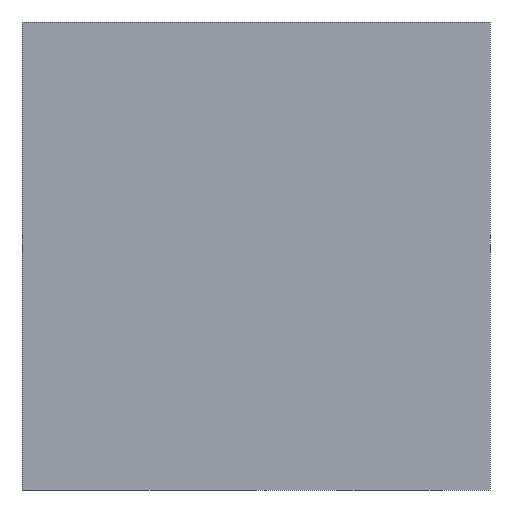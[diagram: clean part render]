
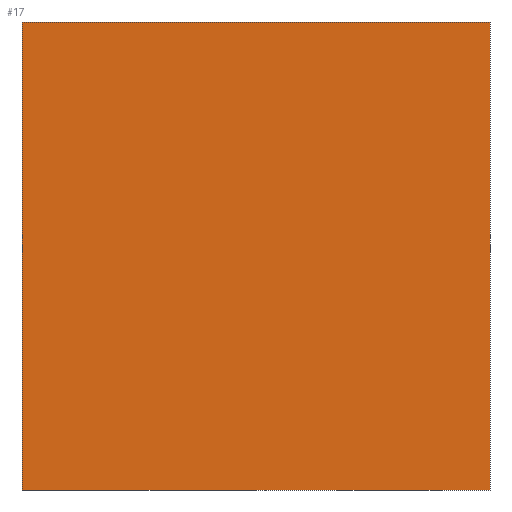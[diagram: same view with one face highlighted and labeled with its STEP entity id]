
A CAD part, left-side view. The second image highlights one B-rep face of the part: STEP entity #17.
In plain terms, the highlighted planar face has unit normal (-1, 0, 0).
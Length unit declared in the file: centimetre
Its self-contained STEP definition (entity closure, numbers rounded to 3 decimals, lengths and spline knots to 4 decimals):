
#4 = EDGE_CURVE ( 'NONE', #18, #266, #133, .T. ) ;
#5 = DIRECTION ( 'NONE',  ( 0., 0., -1. ) ) ;
#9 = VECTOR ( 'NONE', #366, 100. ) ;
#12 = AXIS2_PLACEMENT_3D ( 'NONE', #357, #352, #179 ) ;
#17 = ADVANCED_FACE ( 'NONE', ( #257 ), #287, .F. ) ;
#18 = VERTEX_POINT ( 'NONE', #393 ) ;
#21 = VECTOR ( 'NONE', #285, 100. ) ;
#79 = CARTESIAN_POINT ( 'NONE',  ( 0., 0., 0. ) ) ;
#91 = LINE ( 'NONE', #230, #21 ) ;
#93 = CARTESIAN_POINT ( 'NONE',  ( 0., 1000., 1000. ) ) ;
#133 = LINE ( 'NONE', #330, #441 ) ;
#168 = CARTESIAN_POINT ( 'NONE',  ( 0., 0., 1000. ) ) ;
#174 = CARTESIAN_POINT ( 'NONE',  ( 0., 0., 1000. ) ) ;
#179 = DIRECTION ( 'NONE',  ( 0., 0., -1. ) ) ;
#186 = ORIENTED_EDGE ( 'NONE', *, *, #4, .F. ) ;
#218 = EDGE_CURVE ( 'NONE', #266, #377, #406, .T. ) ;
#230 = CARTESIAN_POINT ( 'NONE',  ( 0., 1000., 0. ) ) ;
#257 = FACE_OUTER_BOUND ( 'NONE', #292, .T. ) ;
#260 = ORIENTED_EDGE ( 'NONE', *, *, #447, .T. ) ;
#266 = VERTEX_POINT ( 'NONE', #174 ) ;
#270 = DIRECTION ( 'NONE',  ( 0., -1., 0. ) ) ;
#285 = DIRECTION ( 'NONE',  ( 0., -1., 0. ) ) ;
#287 = PLANE ( 'NONE',  #12 ) ;
#292 = EDGE_LOOP ( 'NONE', ( #372, #404, #186, #260 ) ) ;
#329 = VERTEX_POINT ( 'NONE', #368 ) ;
#330 = CARTESIAN_POINT ( 'NONE',  ( 0., 1000., 1000. ) ) ;
#331 = EDGE_CURVE ( 'NONE', #329, #377, #91, .T. ) ;
#352 = DIRECTION ( 'NONE',  ( 1., 0., 0. ) ) ;
#357 = CARTESIAN_POINT ( 'NONE',  ( 0., 1000., 1000. ) ) ;
#366 = DIRECTION ( 'NONE',  ( 0., 0., -1. ) ) ;
#368 = CARTESIAN_POINT ( 'NONE',  ( 0., 1000., 0. ) ) ;
#372 = ORIENTED_EDGE ( 'NONE', *, *, #331, .T. ) ;
#377 = VERTEX_POINT ( 'NONE', #79 ) ;
#393 = CARTESIAN_POINT ( 'NONE',  ( 0., 1000., 1000. ) ) ;
#397 = VECTOR ( 'NONE', #5, 100. ) ;
#404 = ORIENTED_EDGE ( 'NONE', *, *, #218, .F. ) ;
#406 = LINE ( 'NONE', #168, #397 ) ;
#420 = LINE ( 'NONE', #93, #9 ) ;
#441 = VECTOR ( 'NONE', #270, 100. ) ;
#447 = EDGE_CURVE ( 'NONE', #18, #329, #420, .T. ) ;
